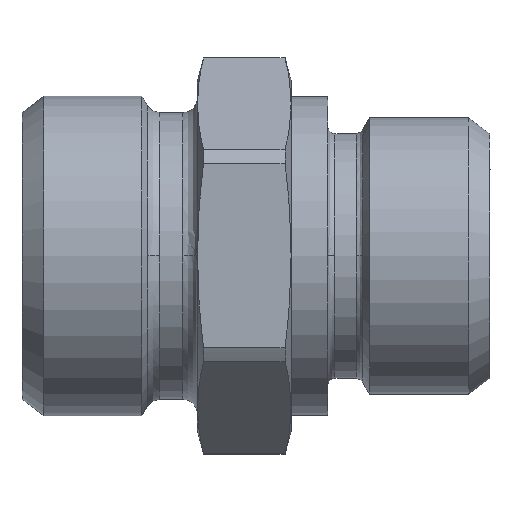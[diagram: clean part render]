
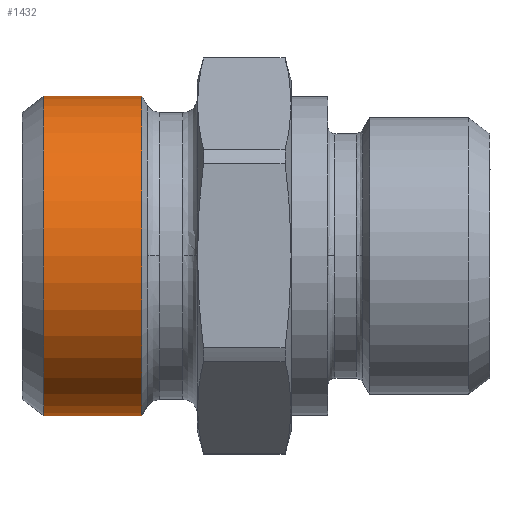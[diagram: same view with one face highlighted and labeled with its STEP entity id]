
A CAD part, top view. The second image highlights one B-rep face of the part: STEP entity #1432.
In plain terms, the highlighted cylindrical face has radius 10.925 mm (diameter 21.85 mm), a partial arc.
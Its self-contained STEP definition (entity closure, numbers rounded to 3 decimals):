
#766=CARTESIAN_POINT('',(0.,-10.925,13.707));
#767=VERTEX_POINT('',#766);
#768=CARTESIAN_POINT('',(0.,-10.925,7.));
#769=VERTEX_POINT('',#768);
#770=CARTESIAN_POINT('',(0.,-10.925,13.707));
#771=DIRECTION('',(0.0,0.0,-1.0));
#772=VECTOR('',#771,6.708);
#773=LINE('',#770,#772);
#774=EDGE_CURVE('',#767,#769,#773,.T.);
#776=CARTESIAN_POINT('',(0.,10.925,13.707));
#777=VERTEX_POINT('',#776);
#785=CARTESIAN_POINT('',(0.,10.925,7.));
#786=VERTEX_POINT('',#785);
#787=CARTESIAN_POINT('',(0.,10.925,7.));
#788=DIRECTION('',(0.0,0.0,1.0));
#789=VECTOR('',#788,6.708);
#790=LINE('',#787,#789);
#791=EDGE_CURVE('',#786,#777,#790,.T.);
#1308=CARTESIAN_POINT('',(0.,0.,7.));
#1309=DIRECTION('',(0.0,0.0,-1.0));
#1310=DIRECTION('',(0.0,-1.0,0.0));
#1311=AXIS2_PLACEMENT_3D('',#1308,#1309,#1310);
#1312=CIRCLE('',#1311,10.925);
#1313=EDGE_CURVE('',#786,#769,#1312,.T.);
#1409=CARTESIAN_POINT('',(0.,0.,13.707));
#1410=DIRECTION('',(0.0,0.0,-1.0));
#1411=DIRECTION('',(0.0,-1.0,0.0));
#1412=AXIS2_PLACEMENT_3D('',#1409,#1410,#1411);
#1413=CIRCLE('',#1412,10.925);
#1414=EDGE_CURVE('',#777,#767,#1413,.T.);
#1421=CARTESIAN_POINT('',(0.,0.,10.353));
#1422=DIRECTION('',(0.,0.,-1.0));
#1423=DIRECTION('',(0.0,-1.0,0.0));
#1424=AXIS2_PLACEMENT_3D('',#1421,#1422,#1423);
#1425=CYLINDRICAL_SURFACE('',#1424,10.925);
#1426=ORIENTED_EDGE('',*,*,#774,.T.);
#1427=ORIENTED_EDGE('',*,*,#1313,.F.);
#1428=ORIENTED_EDGE('',*,*,#791,.T.);
#1429=ORIENTED_EDGE('',*,*,#1414,.T.);
#1430=EDGE_LOOP('',(#1426,#1427,#1428,#1429));
#1431=FACE_OUTER_BOUND('',#1430,.T.);
#1432=ADVANCED_FACE('',(#1431),#1425,.T.);
